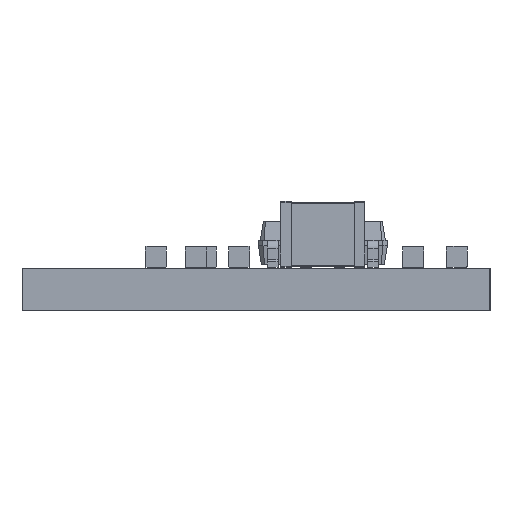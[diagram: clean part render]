
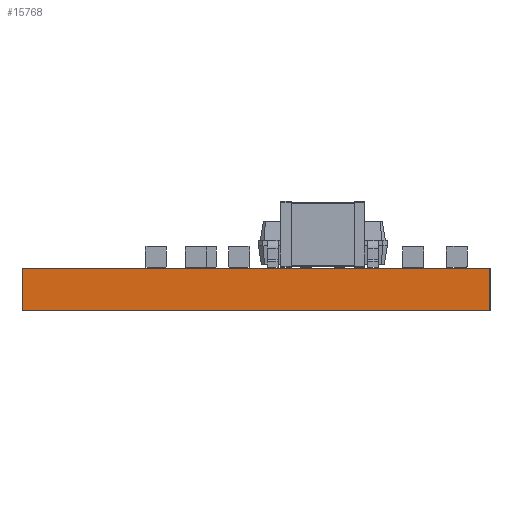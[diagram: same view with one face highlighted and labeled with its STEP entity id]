
A CAD part, left-side view. The second image highlights one B-rep face of the part: STEP entity #15768.
In plain terms, the highlighted planar face has unit normal (-1, 0, 0).
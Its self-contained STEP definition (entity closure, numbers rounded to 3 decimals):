
#15652 = EDGE_CURVE('',#15653,#15655,#15657,.T.);
#15653 = VERTEX_POINT('',#15654);
#15654 = CARTESIAN_POINT('',(-11.43,8.89,0.));
#15655 = VERTEX_POINT('',#15656);
#15656 = CARTESIAN_POINT('',(-11.43,8.89,1.6));
#15657 = SURFACE_CURVE('',#15658,(#15662,#15674),.PCURVE_S1.);
#15658 = LINE('',#15659,#15660);
#15659 = CARTESIAN_POINT('',(-11.43,8.89,0.));
#15660 = VECTOR('',#15661,1.);
#15661 = DIRECTION('',(0.,0.,1.));
#15662 = PCURVE('',#15663,#15668);
#15663 = PLANE('',#15664);
#15664 = AXIS2_PLACEMENT_3D('',#15665,#15666,#15667);
#15665 = CARTESIAN_POINT('',(-11.43,8.89,0.));
#15666 = DIRECTION('',(0.,1.,0.));
#15667 = DIRECTION('',(1.,0.,0.));
#15668 = DEFINITIONAL_REPRESENTATION('',(#15669),#15673);
#15669 = LINE('',#15670,#15671);
#15670 = CARTESIAN_POINT('',(0.,0.));
#15671 = VECTOR('',#15672,1.);
#15672 = DIRECTION('',(0.,-1.));
#15673 = ( GEOMETRIC_REPRESENTATION_CONTEXT(2) 
PARAMETRIC_REPRESENTATION_CONTEXT() REPRESENTATION_CONTEXT('2D SPACE',''
  ) );
#15674 = PCURVE('',#15675,#15680);
#15675 = PLANE('',#15676);
#15676 = AXIS2_PLACEMENT_3D('',#15677,#15678,#15679);
#15677 = CARTESIAN_POINT('',(-11.43,-8.89,0.));
#15678 = DIRECTION('',(-1.,0.,0.));
#15679 = DIRECTION('',(0.,1.,0.));
#15680 = DEFINITIONAL_REPRESENTATION('',(#15681),#15685);
#15681 = LINE('',#15682,#15683);
#15682 = CARTESIAN_POINT('',(17.78,0.));
#15683 = VECTOR('',#15684,1.);
#15684 = DIRECTION('',(0.,-1.));
#15685 = ( GEOMETRIC_REPRESENTATION_CONTEXT(2) 
PARAMETRIC_REPRESENTATION_CONTEXT() REPRESENTATION_CONTEXT('2D SPACE',''
  ) );
#15703 = PLANE('',#15704);
#15704 = AXIS2_PLACEMENT_3D('',#15705,#15706,#15707);
#15705 = CARTESIAN_POINT('',(0.,0.,1.6)
  );
#15706 = DIRECTION('',(-0.,-0.,-1.));
#15707 = DIRECTION('',(-1.,0.,0.));
#15757 = PLANE('',#15758);
#15758 = AXIS2_PLACEMENT_3D('',#15759,#15760,#15761);
#15759 = CARTESIAN_POINT('',(0.,0.,0.));
#15760 = DIRECTION('',(-0.,-0.,-1.));
#15761 = DIRECTION('',(-1.,0.,0.));
#15768 = ADVANCED_FACE('',(#15769),#15675,.T.);
#15769 = FACE_BOUND('',#15770,.T.);
#15770 = EDGE_LOOP('',(#15771,#15801,#15822,#15823));
#15771 = ORIENTED_EDGE('',*,*,#15772,.T.);
#15772 = EDGE_CURVE('',#15773,#15775,#15777,.T.);
#15773 = VERTEX_POINT('',#15774);
#15774 = CARTESIAN_POINT('',(-11.43,-8.89,0.));
#15775 = VERTEX_POINT('',#15776);
#15776 = CARTESIAN_POINT('',(-11.43,-8.89,1.6));
#15777 = SURFACE_CURVE('',#15778,(#15782,#15789),.PCURVE_S1.);
#15778 = LINE('',#15779,#15780);
#15779 = CARTESIAN_POINT('',(-11.43,-8.89,0.));
#15780 = VECTOR('',#15781,1.);
#15781 = DIRECTION('',(0.,0.,1.));
#15782 = PCURVE('',#15675,#15783);
#15783 = DEFINITIONAL_REPRESENTATION('',(#15784),#15788);
#15784 = LINE('',#15785,#15786);
#15785 = CARTESIAN_POINT('',(0.,0.));
#15786 = VECTOR('',#15787,1.);
#15787 = DIRECTION('',(0.,-1.));
#15788 = ( GEOMETRIC_REPRESENTATION_CONTEXT(2) 
PARAMETRIC_REPRESENTATION_CONTEXT() REPRESENTATION_CONTEXT('2D SPACE',''
  ) );
#15789 = PCURVE('',#15790,#15795);
#15790 = PLANE('',#15791);
#15791 = AXIS2_PLACEMENT_3D('',#15792,#15793,#15794);
#15792 = CARTESIAN_POINT('',(11.43,-8.89,0.));
#15793 = DIRECTION('',(0.,-1.,0.));
#15794 = DIRECTION('',(-1.,0.,0.));
#15795 = DEFINITIONAL_REPRESENTATION('',(#15796),#15800);
#15796 = LINE('',#15797,#15798);
#15797 = CARTESIAN_POINT('',(22.86,0.));
#15798 = VECTOR('',#15799,1.);
#15799 = DIRECTION('',(0.,-1.));
#15800 = ( GEOMETRIC_REPRESENTATION_CONTEXT(2) 
PARAMETRIC_REPRESENTATION_CONTEXT() REPRESENTATION_CONTEXT('2D SPACE',''
  ) );
#15801 = ORIENTED_EDGE('',*,*,#15802,.T.);
#15802 = EDGE_CURVE('',#15775,#15655,#15803,.T.);
#15803 = SURFACE_CURVE('',#15804,(#15808,#15815),.PCURVE_S1.);
#15804 = LINE('',#15805,#15806);
#15805 = CARTESIAN_POINT('',(-11.43,-8.89,1.6));
#15806 = VECTOR('',#15807,1.);
#15807 = DIRECTION('',(0.,1.,0.));
#15808 = PCURVE('',#15675,#15809);
#15809 = DEFINITIONAL_REPRESENTATION('',(#15810),#15814);
#15810 = LINE('',#15811,#15812);
#15811 = CARTESIAN_POINT('',(0.,-1.6));
#15812 = VECTOR('',#15813,1.);
#15813 = DIRECTION('',(1.,0.));
#15814 = ( GEOMETRIC_REPRESENTATION_CONTEXT(2) 
PARAMETRIC_REPRESENTATION_CONTEXT() REPRESENTATION_CONTEXT('2D SPACE',''
  ) );
#15815 = PCURVE('',#15703,#15816);
#15816 = DEFINITIONAL_REPRESENTATION('',(#15817),#15821);
#15817 = LINE('',#15818,#15819);
#15818 = CARTESIAN_POINT('',(11.43,-8.89));
#15819 = VECTOR('',#15820,1.);
#15820 = DIRECTION('',(0.,1.));
#15821 = ( GEOMETRIC_REPRESENTATION_CONTEXT(2) 
PARAMETRIC_REPRESENTATION_CONTEXT() REPRESENTATION_CONTEXT('2D SPACE',''
  ) );
#15822 = ORIENTED_EDGE('',*,*,#15652,.F.);
#15823 = ORIENTED_EDGE('',*,*,#15824,.F.);
#15824 = EDGE_CURVE('',#15773,#15653,#15825,.T.);
#15825 = SURFACE_CURVE('',#15826,(#15830,#15837),.PCURVE_S1.);
#15826 = LINE('',#15827,#15828);
#15827 = CARTESIAN_POINT('',(-11.43,-8.89,0.));
#15828 = VECTOR('',#15829,1.);
#15829 = DIRECTION('',(0.,1.,0.));
#15830 = PCURVE('',#15675,#15831);
#15831 = DEFINITIONAL_REPRESENTATION('',(#15832),#15836);
#15832 = LINE('',#15833,#15834);
#15833 = CARTESIAN_POINT('',(0.,0.));
#15834 = VECTOR('',#15835,1.);
#15835 = DIRECTION('',(1.,0.));
#15836 = ( GEOMETRIC_REPRESENTATION_CONTEXT(2) 
PARAMETRIC_REPRESENTATION_CONTEXT() REPRESENTATION_CONTEXT('2D SPACE',''
  ) );
#15837 = PCURVE('',#15757,#15838);
#15838 = DEFINITIONAL_REPRESENTATION('',(#15839),#15843);
#15839 = LINE('',#15840,#15841);
#15840 = CARTESIAN_POINT('',(11.43,-8.89));
#15841 = VECTOR('',#15842,1.);
#15842 = DIRECTION('',(0.,1.));
#15843 = ( GEOMETRIC_REPRESENTATION_CONTEXT(2) 
PARAMETRIC_REPRESENTATION_CONTEXT() REPRESENTATION_CONTEXT('2D SPACE',''
  ) );
